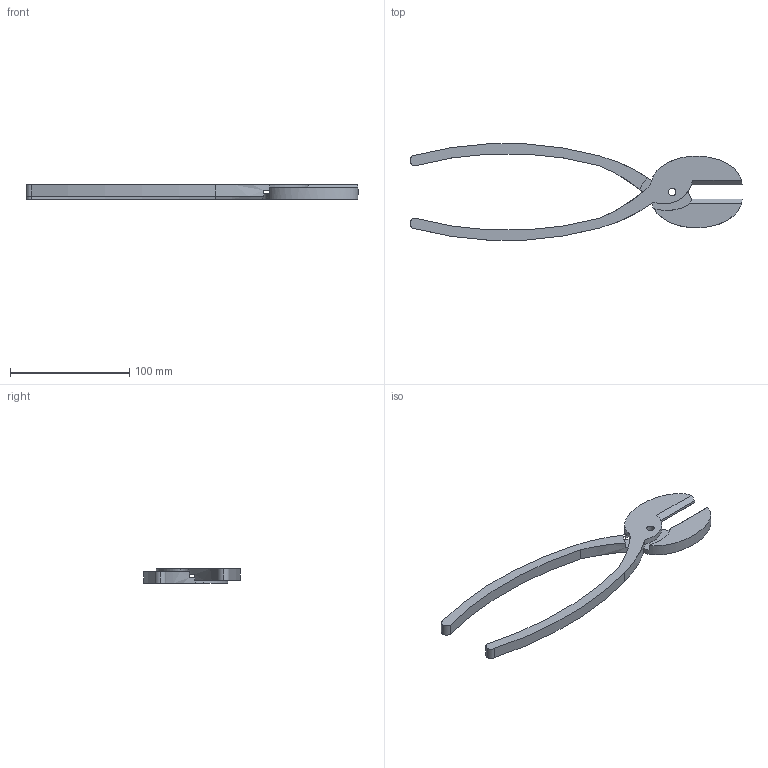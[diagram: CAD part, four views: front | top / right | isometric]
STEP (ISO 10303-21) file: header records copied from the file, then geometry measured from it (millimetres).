
FILE_DESCRIPTION (( 'STEP AP203' ), '1' );
FILE_NAME ('Clippers.STEP', '2007-01-31T17:06:58', ( 'ALGOR' ), ( 'ALGOR Inc.' ), 'SwSTEP 2.0', 'SolidWorks 2007', '' );
FILE_SCHEMA (( 'CONFIG_CONTROL_DESIGN' ));
Length unit declared in the file: inch
Products named in the file (2): Clippers; Main Part1
Assembly tree (2 placements, depth 2):
  Clippers
    Main Part1  x2
Bounding box: 278.64 x 80.9 x 12.06 mm (x, y, z)
Volume: 62151.4 mm3; surface area: 26062.3 mm2
Topology: 2 solids, 2 shells, 40 faces, 106 edges, 70 vertices
Faces by surface type: cylinder 22, plane 14, bspline 4
Entity records: 882 total; most frequent: CARTESIAN_POINT 158, DIRECTION 114, ORIENTED_EDGE 106, EDGE_CURVE 53, AXIS2_PLACEMENT_3D 47, VERTEX_POINT 35, CIRCLE 24, EDGE_LOOP 22
